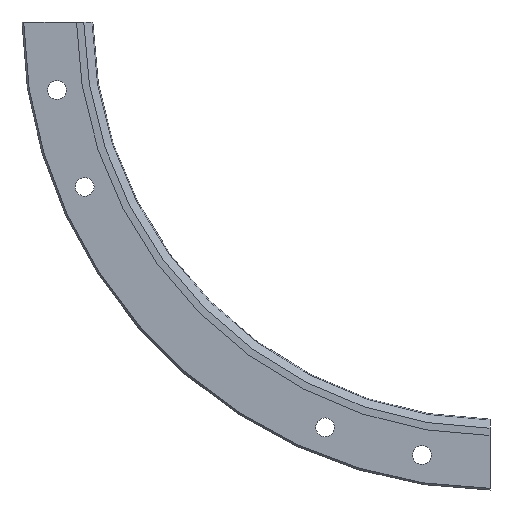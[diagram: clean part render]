
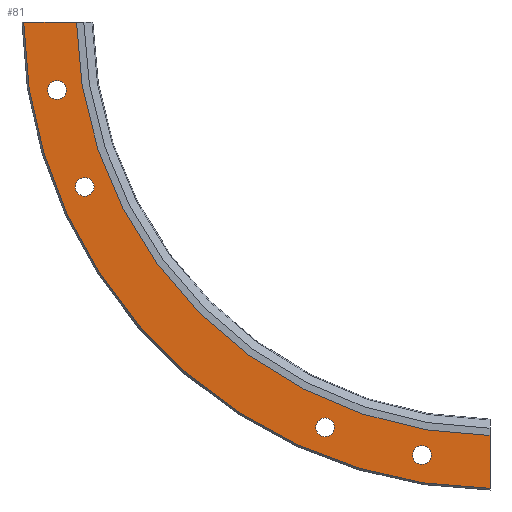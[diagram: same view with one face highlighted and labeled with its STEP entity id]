
A CAD part, front view. The second image highlights one B-rep face of the part: STEP entity #81.
In plain terms, the highlighted planar face has unit normal (0, -1, 0).
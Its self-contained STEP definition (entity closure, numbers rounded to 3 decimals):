
#81 = ADVANCED_FACE( '', ( #118, #119, #120, #121, #122 ), #123, .T. );
#118 = FACE_BOUND( '', #190, .T. );
#119 = FACE_BOUND( '', #191, .T. );
#120 = FACE_BOUND( '', #192, .T. );
#121 = FACE_BOUND( '', #193, .T. );
#122 = FACE_OUTER_BOUND( '', #194, .T. );
#123 = PLANE( '', #195 );
#190 = EDGE_LOOP( '', ( #300 ) );
#191 = EDGE_LOOP( '', ( #301 ) );
#192 = EDGE_LOOP( '', ( #302 ) );
#193 = EDGE_LOOP( '', ( #303 ) );
#194 = EDGE_LOOP( '', ( #304, #305, #306, #307 ) );
#195 = AXIS2_PLACEMENT_3D( '', #308, #309, #310 );
#300 = ORIENTED_EDGE( '', *, *, #455, .F. );
#301 = ORIENTED_EDGE( '', *, *, #456, .F. );
#302 = ORIENTED_EDGE( '', *, *, #457, .F. );
#303 = ORIENTED_EDGE( '', *, *, #458, .F. );
#304 = ORIENTED_EDGE( '', *, *, #459, .F. );
#305 = ORIENTED_EDGE( '', *, *, #460, .T. );
#306 = ORIENTED_EDGE( '', *, *, #440, .T. );
#307 = ORIENTED_EDGE( '', *, *, #434, .T. );
#308 = CARTESIAN_POINT( '', ( -123., 0., 0. ) );
#309 = DIRECTION( '', ( 0., -1., 0. ) );
#310 = DIRECTION( '', ( 0., 0., -1. ) );
#434 = EDGE_CURVE( '', #493, #491, #494, .T. );
#440 = EDGE_CURVE( '', #504, #493, #505, .T. );
#455 = EDGE_CURVE( '', #529, #529, #530, .T. );
#456 = EDGE_CURVE( '', #531, #531, #532, .T. );
#457 = EDGE_CURVE( '', #533, #533, #534, .T. );
#458 = EDGE_CURVE( '', #535, #535, #536, .T. );
#459 = EDGE_CURVE( '', #537, #491, #538, .T. );
#460 = EDGE_CURVE( '', #537, #504, #539, .T. );
#491 = VERTEX_POINT( '', #598 );
#493 = VERTEX_POINT( '', #601 );
#494 = LINE( '', #602, #603 );
#504 = VERTEX_POINT( '', #624 );
#505 = CIRCLE( '', #625, 138.5 );
#529 = VERTEX_POINT( '', #660 );
#530 = CIRCLE( '', #661, 2.75 );
#531 = VERTEX_POINT( '', #662 );
#532 = CIRCLE( '', #663, 2.75 );
#533 = VERTEX_POINT( '', #664 );
#534 = CIRCLE( '', #665, 2.75 );
#535 = VERTEX_POINT( '', #666 );
#536 = CIRCLE( '', #667, 2.75 );
#537 = VERTEX_POINT( '', #668 );
#538 = CIRCLE( '', #669, 123. );
#539 = LINE( '', #670, #671 );
#598 = CARTESIAN_POINT( '', ( -1.5, 0., -122.991 ) );
#601 = CARTESIAN_POINT( '', ( -1.5, 0., -138.492 ) );
#602 = CARTESIAN_POINT( '', ( -1.5, 0., -149. ) );
#603 = VECTOR( '', #724, 1000. );
#624 = CARTESIAN_POINT( '', ( -138.492, 0., -1.5 ) );
#625 = AXIS2_PLACEMENT_3D( '', #727, #728, #729 );
#660 = CARTESIAN_POINT( '', ( -120.566, 0., -52.69 ) );
#661 = AXIS2_PLACEMENT_3D( '', #759, #760, #761 );
#662 = CARTESIAN_POINT( '', ( -128.717, 0., -24.251 ) );
#663 = AXIS2_PLACEMENT_3D( '', #762, #763, #764 );
#664 = CARTESIAN_POINT( '', ( -49.94, 0., -123.316 ) );
#665 = AXIS2_PLACEMENT_3D( '', #765, #766, #767 );
#666 = CARTESIAN_POINT( '', ( -21.501, 0., -131.467 ) );
#667 = AXIS2_PLACEMENT_3D( '', #768, #769, #770 );
#668 = CARTESIAN_POINT( '', ( -122.991, 0., -1.5 ) );
#669 = AXIS2_PLACEMENT_3D( '', #771, #772, #773 );
#670 = CARTESIAN_POINT( '', ( -1.5, 0., -1.5 ) );
#671 = VECTOR( '', #774, 1000. );
#724 = DIRECTION( '', ( 0., 0., 1. ) );
#727 = CARTESIAN_POINT( '', ( 0., 0., 0. ) );
#728 = DIRECTION( '', ( 0., -1., 0. ) );
#729 = DIRECTION( '', ( 0., 0., -1. ) );
#759 = CARTESIAN_POINT( '', ( -120.566, 0., -49.94 ) );
#760 = DIRECTION( '', ( 0., -1., 0. ) );
#761 = DIRECTION( '', ( 0., 0., -1. ) );
#762 = CARTESIAN_POINT( '', ( -128.717, 0., -21.501 ) );
#763 = DIRECTION( '', ( 0., -1., 0. ) );
#764 = DIRECTION( '', ( 0., 0., -1. ) );
#765 = CARTESIAN_POINT( '', ( -49.94, 0., -120.566 ) );
#766 = DIRECTION( '', ( 0., -1., 0. ) );
#767 = DIRECTION( '', ( 0., 0., -1. ) );
#768 = CARTESIAN_POINT( '', ( -21.501, 0., -128.717 ) );
#769 = DIRECTION( '', ( 0., -1., 0. ) );
#770 = DIRECTION( '', ( 0., 0., -1. ) );
#771 = CARTESIAN_POINT( '', ( 0., 0., 0. ) );
#772 = DIRECTION( '', ( 0., -1., 0. ) );
#773 = DIRECTION( '', ( 0., 0., -1. ) );
#774 = DIRECTION( '', ( -1., 0., 0. ) );
